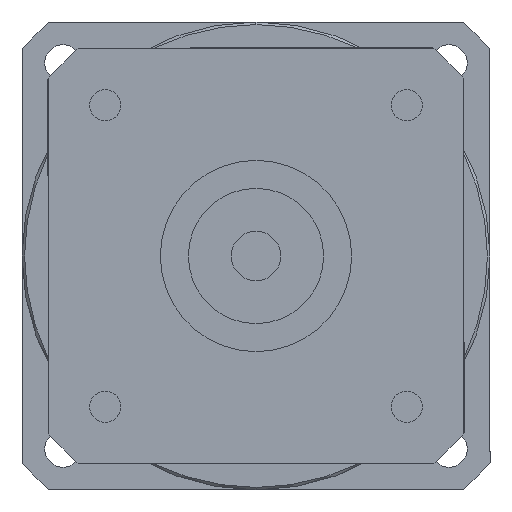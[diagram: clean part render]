
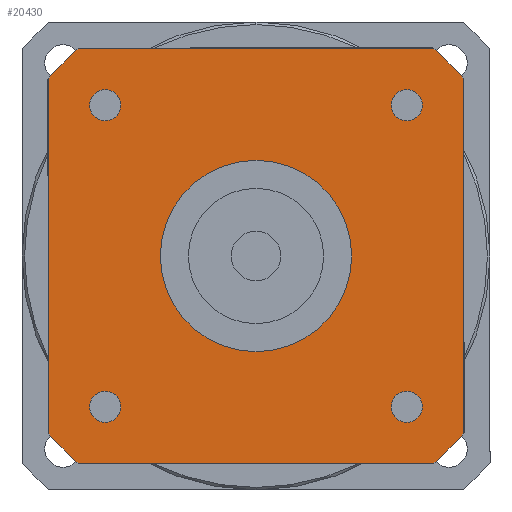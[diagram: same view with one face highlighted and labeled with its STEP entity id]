
A CAD part, left-side view. The second image highlights one B-rep face of the part: STEP entity #20430.
In plain terms, the highlighted planar face has unit normal (-1, 0, 0) as drawn and (0, 0, -1) by its records, which use the part's own axes.
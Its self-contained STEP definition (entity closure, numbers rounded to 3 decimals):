
#16180=CARTESIAN_POINT('',(-34.004,40.,-119.));
#16190=VERTEX_POINT('',#16180);
#16350=CARTESIAN_POINT('',(-40.,34.004,-119.));
#16360=VERTEX_POINT('',#16350);
#16390=CARTESIAN_POINT('',(0.,0.,
-119.));
#16400=DIRECTION('',(0.,0.,1.));
#16410=DIRECTION('',(0.,-1.,0.));
#16420=AXIS2_PLACEMENT_3D('',#16390,#16400,#16410);
#16430=CIRCLE('',#16420,52.5);
#16440=EDGE_CURVE('',#16190,#16360,#16430,.T.);
#18350=CARTESIAN_POINT('',(40.,-34.004,-119.));
#18360=VERTEX_POINT('',#18350);
#18470=CARTESIAN_POINT('',(40.,34.004,-119.));
#18480=VERTEX_POINT('',#18470);
#18510=CARTESIAN_POINT('',(40.,-40.,-119.));
#18520=DIRECTION('',(0.,1.,0.));
#18530=VECTOR('',#18520,1000.);
#18540=LINE('',#18510,#18530);
#18550=EDGE_CURVE('',#18360,#18480,#18540,.T.);
#18690=CARTESIAN_POINT('',(34.004,40.,-119.));
#18700=VERTEX_POINT('',#18690);
#18730=CARTESIAN_POINT('',(0.,0.,
-119.));
#18740=DIRECTION('',(0.,0.,1.));
#18750=DIRECTION('',(0.,-1.,0.));
#18760=AXIS2_PLACEMENT_3D('',#18730,#18740,#18750);
#18770=CIRCLE('',#18760,52.5);
#18780=EDGE_CURVE('',#18480,#18700,#18770,.T.);
#18960=CARTESIAN_POINT('',(40.,40.,-119.));
#18970=DIRECTION('',(-1.,0.,0.));
#18980=VECTOR('',#18970,1000.);
#18990=LINE('',#18960,#18980);
#19000=EDGE_CURVE('',#18700,#16190,#18990,.T.);
#19050=CARTESIAN_POINT('',(-40.,40.,-119.));
#19060=DIRECTION('',(0.,0.,1.));
#19070=DIRECTION('',(-1.,0.,0.));
#19080=AXIS2_PLACEMENT_3D('',#19050,#19060,#19070);
#19090=PLANE('',#19080);
#19100=CARTESIAN_POINT('',(28.998,-28.998,-119.));
#19110=DIRECTION('',(0.,0.,-1.));
#19120=DIRECTION('',(1.,0.,0.));
#19130=AXIS2_PLACEMENT_3D('',#19100,#19110,#19120);
#19140=CIRCLE('',#19130,3.);
#19150=CARTESIAN_POINT('',(31.998,-28.998,-119.));
#19160=VERTEX_POINT('',#19150);
#19170=CARTESIAN_POINT('',(28.998,-31.998,-119.));
#19180=VERTEX_POINT('',#19170);
#19190=EDGE_CURVE('',#19160,#19180,#19140,.T.);
#19200=ORIENTED_EDGE('',*,*,#19190,.F.);
#19210=CARTESIAN_POINT('',(28.998,-25.998,-119.));
#19220=VERTEX_POINT('',#19210);
#19230=EDGE_CURVE('',#19180,#19220,#19140,.T.);
#19240=ORIENTED_EDGE('',*,*,#19230,.F.);
#19250=EDGE_CURVE('',#19220,#19160,#19140,.T.);
#19260=ORIENTED_EDGE('',*,*,#19250,.F.);
#19270=EDGE_LOOP('',(#19260,#19240,#19200));
#19280=FACE_BOUND('',#19270,.T.);
#19290=CARTESIAN_POINT('',(28.998,28.998,-119.));
#19300=DIRECTION('',(0.,0.,-1.));
#19310=DIRECTION('',(0.,1.,0.));
#19320=AXIS2_PLACEMENT_3D('',#19290,#19300,#19310);
#19330=CIRCLE('',#19320,3.);
#19340=CARTESIAN_POINT('',(28.998,31.998,-119.));
#19350=VERTEX_POINT('',#19340);
#19360=CARTESIAN_POINT('',(31.998,28.998,-119.));
#19370=VERTEX_POINT('',#19360);
#19380=EDGE_CURVE('',#19350,#19370,#19330,.T.);
#19390=ORIENTED_EDGE('',*,*,#19380,.F.);
#19400=CARTESIAN_POINT('',(25.998,28.998,-119.));
#19410=VERTEX_POINT('',#19400);
#19420=EDGE_CURVE('',#19370,#19410,#19330,.T.);
#19430=ORIENTED_EDGE('',*,*,#19420,.F.);
#19440=EDGE_CURVE('',#19410,#19350,#19330,.T.);
#19450=ORIENTED_EDGE('',*,*,#19440,.F.);
#19460=EDGE_LOOP('',(#19450,#19430,#19390));
#19470=FACE_BOUND('',#19460,.T.);
#19480=CARTESIAN_POINT('',(-28.998,28.998,-119.));
#19490=DIRECTION('',(0.,0.,-1.));
#19500=DIRECTION('',(-1.,0.,0.));
#19510=AXIS2_PLACEMENT_3D('',#19480,#19490,#19500);
#19520=CIRCLE('',#19510,3.);
#19530=CARTESIAN_POINT('',(-31.998,28.998,-119.));
#19540=VERTEX_POINT('',#19530);
#19550=CARTESIAN_POINT('',(-28.998,31.998,-119.));
#19560=VERTEX_POINT('',#19550);
#19570=EDGE_CURVE('',#19540,#19560,#19520,.T.);
#19580=ORIENTED_EDGE('',*,*,#19570,.F.);
#19590=CARTESIAN_POINT('',(-28.998,25.998,-119.));
#19600=VERTEX_POINT('',#19590);
#19610=EDGE_CURVE('',#19560,#19600,#19520,.T.);
#19620=ORIENTED_EDGE('',*,*,#19610,.F.);
#19630=EDGE_CURVE('',#19600,#19540,#19520,.T.);
#19640=ORIENTED_EDGE('',*,*,#19630,.F.);
#19650=EDGE_LOOP('',(#19640,#19620,#19580));
#19660=FACE_BOUND('',#19650,.T.);
#19670=CARTESIAN_POINT('',(-28.998,-28.998,-119.));
#19680=DIRECTION('',(0.,0.,-1.));
#19690=DIRECTION('',(0.,-1.,0.));
#19700=AXIS2_PLACEMENT_3D('',#19670,#19680,#19690);
#19710=CIRCLE('',#19700,3.);
#19720=CARTESIAN_POINT('',(-28.998,-31.998,-119.));
#19730=VERTEX_POINT('',#19720);
#19740=CARTESIAN_POINT('',(-31.998,-28.998,-119.));
#19750=VERTEX_POINT('',#19740);
#19760=EDGE_CURVE('',#19730,#19750,#19710,.T.);
#19770=ORIENTED_EDGE('',*,*,#19760,.F.);
#19780=CARTESIAN_POINT('',(-25.998,-28.998,-119.));
#19790=VERTEX_POINT('',#19780);
#19800=EDGE_CURVE('',#19750,#19790,#19710,.T.);
#19810=ORIENTED_EDGE('',*,*,#19800,.F.);
#19820=EDGE_CURVE('',#19790,#19730,#19710,.T.);
#19830=ORIENTED_EDGE('',*,*,#19820,.F.);
#19840=EDGE_LOOP('',(#19830,#19810,#19770));
#19850=FACE_BOUND('',#19840,.T.);
#19860=CARTESIAN_POINT('',(0.,0.,
-119.));
#19870=DIRECTION('',(0.,0.,1.));
#19880=DIRECTION('',(0.,-1.,0.));
#19890=AXIS2_PLACEMENT_3D('',#19860,#19870,#19880);
#19900=CIRCLE('',#19890,52.5);
#19910=CARTESIAN_POINT('',(-40.,-34.004,-119.));
#19920=VERTEX_POINT('',#19910);
#19930=CARTESIAN_POINT('',(-34.004,-40.,-119.));
#19940=VERTEX_POINT('',#19930);
#19950=EDGE_CURVE('',#19920,#19940,#19900,.T.);
#19960=ORIENTED_EDGE('',*,*,#19950,.F.);
#19970=CARTESIAN_POINT('',(-40.,-40.,-119.));
#19980=DIRECTION('',(1.,0.,0.));
#19990=VECTOR('',#19980,1000.);
#20000=LINE('',#19970,#19990);
#20010=CARTESIAN_POINT('',(34.004,-40.,-119.));
#20020=VERTEX_POINT('',#20010);
#20030=EDGE_CURVE('',#19940,#20020,#20000,.T.);
#20040=ORIENTED_EDGE('',*,*,#20030,.F.);
#20050=CARTESIAN_POINT('',(0.,0.,
-119.));
#20060=DIRECTION('',(0.,0.,1.));
#20070=DIRECTION('',(0.,-1.,0.));
#20080=AXIS2_PLACEMENT_3D('',#20050,#20060,#20070);
#20090=CIRCLE('',#20080,52.5);
#20100=EDGE_CURVE('',#20020,#18360,#20090,.T.);
#20110=ORIENTED_EDGE('',*,*,#20100,.F.);
#20120=ORIENTED_EDGE('',*,*,#18550,.F.);
#20130=ORIENTED_EDGE('',*,*,#18780,.F.);
#20140=ORIENTED_EDGE('',*,*,#19000,.F.);
#20150=ORIENTED_EDGE('',*,*,#16440,.F.);
#20160=CARTESIAN_POINT('',(-40.,40.,-119.));
#20170=DIRECTION('',(0.,-1.,0.));
#20180=VECTOR('',#20170,1000.);
#20190=LINE('',#20160,#20180);
#20200=EDGE_CURVE('',#16360,#19920,#20190,.T.);
#20210=ORIENTED_EDGE('',*,*,#20200,.F.);
#20220=EDGE_LOOP('',(#20210,#20150,#20140,#20130,#20120,#20110,#20040,
#19960));
#20230=FACE_OUTER_BOUND('',#20220,.T.);
#20240=CARTESIAN_POINT('',(0.,0.,
-119.));
#20250=DIRECTION('',(0.,0.,1.));
#20260=DIRECTION('',(0.,-1.,0.));
#20270=AXIS2_PLACEMENT_3D('',#20240,#20250,#20260);
#20280=CIRCLE('',#20270,18.4);
#20290=CARTESIAN_POINT('',(18.4,0.,-119.));
#20300=VERTEX_POINT('',#20290);
#20310=CARTESIAN_POINT('',(-18.4,0.,-119.));
#20320=VERTEX_POINT('',#20310);
#20330=EDGE_CURVE('',#20300,#20320,#20280,.T.);
#20340=ORIENTED_EDGE('',*,*,#20330,.T.);
#20350=CARTESIAN_POINT('',(0.,-18.4,-119.));
#20360=VERTEX_POINT('',#20350);
#20370=EDGE_CURVE('',#20360,#20300,#20280,.T.);
#20380=ORIENTED_EDGE('',*,*,#20370,.T.);
#20390=EDGE_CURVE('',#20320,#20360,#20280,.T.);
#20400=ORIENTED_EDGE('',*,*,#20390,.T.);
#20410=EDGE_LOOP('',(#20400,#20380,#20340));
#20420=FACE_BOUND('',#20410,.T.);
#20430=ADVANCED_FACE('',(#19280,#19470,#19660,#19850,#20230,#20420),
#19090,.F.);
